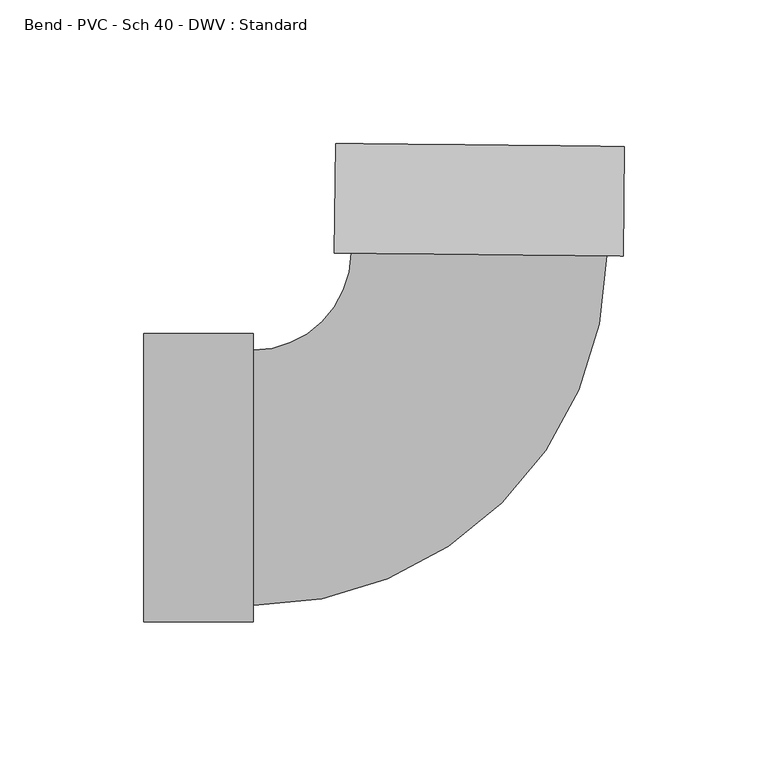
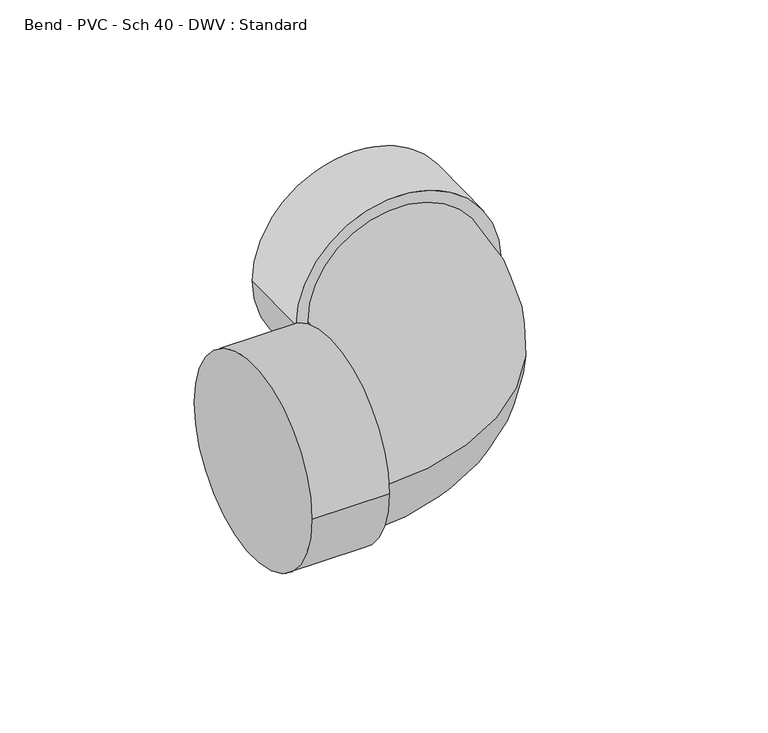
"""IFC4 building model written with IfcOpenShell, lengths in millimetres: pipe fitting geometry, Bend - PVC - Sch 40 - DWV : Standard."""

import ifcopenshell
import ifcopenshell.guid

model = None  # the IFC model being written
_history = None  # IfcOwnerHistory: only IFC2X3 demands one
_inside = {}  # id of a spatial element -> (the spatial element, [elements in it])
_under = {}  # id of a project, library or spatial element -> (it, [spatial elements below it])
_declared = {}  # id of a project -> (the project, [libraries it declares])
_typed = {}  # id of a type object -> (the type object, [elements of that type])
_made_of = {}  # id of a material, layer set ... -> (it, [elements and type objects made of it])


def new_model(schema):
    """Start an empty IFC model of exactly this schema.

    Asked for "IFC4X3", IfcOpenShell would pick the latest addendum, in which some entities
    have other attributes; the version numbers below select the first issue.
    IFC2X3 requires an IfcOwnerHistory on every rooted entity: one is made here for all.
    """
    global model, _history
    if schema == "IFC4X3":
        model = ifcopenshell.file(schema_version=(4, 3, 0, 0))
    else:
        model = ifcopenshell.file(schema=schema)
    _inside.clear()
    _under.clear()
    _declared.clear()
    _typed.clear()
    _made_of.clear()
    _history = None
    if model.schema == "IFC2X3":
        org = make("IfcOrganization", Name="unknown")
        user = make(
            "IfcPersonAndOrganization",
            ThePerson=make("IfcPerson", FamilyName="unknown"),
            TheOrganization=org,
        )
        app = make(
            "IfcApplication",
            ApplicationDeveloper=org,
            Version="unknown",
            ApplicationFullName="unknown",
            ApplicationIdentifier="unknown",
        )
        _history = make(
            "IfcOwnerHistory",
            OwningUser=user,
            OwningApplication=app,
            ChangeAction="ADDED",
            CreationDate=0,
        )
    return model


def make(cls, **values):
    """One entity of the class cls with the attributes given. An attribute that is None is left unset."""
    return model.create_entity(
        cls, **{name: value for name, value in values.items() if value is not None}
    )


def rooted(cls, **values):
    """An entity with a GlobalId (a new one), such as an element, a storey or a relation."""
    return make(cls, GlobalId=ifcopenshell.guid.new(), OwnerHistory=_history, **values)


def si_unit(unit_type, name, prefix=None):
    """IfcSIUnit, for example si_unit("LENGTHUNIT", "METRE", prefix="MILLI")."""
    return make("IfcSIUnit", UnitType=unit_type, Prefix=prefix, Name=name)


def assignment(units):
    """IfcUnitAssignment: the units of a project."""
    return None if units is None else make("IfcUnitAssignment", Units=units)


def point(xyz):
    """IfcCartesianPoint."""
    return None if xyz is None else make("IfcCartesianPoint", Coordinates=xyz)


def direction(xyz):
    """IfcDirection."""
    return None if xyz is None else make("IfcDirection", DirectionRatios=xyz)


def frame(location, z_axis=None, x_axis=None):
    """IfcAxis2Placement3D, a coordinate frame: its origin and axes. An axis left out is left unset."""
    return make(
        "IfcAxis2Placement3D",
        Location=point(location),
        Axis=direction(z_axis),
        RefDirection=direction(x_axis),
    )


def origin():
    """The frame at (0, 0, 0) with its axes left unset."""
    return frame((0.0, 0.0, 0.0))


def place(relative_to, where):
    """IfcLocalPlacement: puts the frame where relative to a parent placement (None: the world)."""
    return make(
        "IfcLocalPlacement", PlacementRelTo=relative_to, RelativePlacement=where
    )


def context(
    kind, dimensions, precision=None, world=None, true_north=None, identifier=None
):
    """IfcGeometricRepresentationContext, for example the 3D "Model" context."""
    return make(
        "IfcGeometricRepresentationContext",
        ContextIdentifier=identifier,
        ContextType=kind,
        CoordinateSpaceDimension=dimensions,
        Precision=precision,
        WorldCoordinateSystem=world,
        TrueNorth=true_north,
    )


def project(units=None, contexts=None):
    """IfcProject with its units and contexts."""
    return rooted(
        "IfcProject",
        Name="project",
        RepresentationContexts=contexts,
        UnitsInContext=assignment(units),
    )


def spatial(cls, under=None, at=None, **own):
    """A site, building, storey or space (cls), placed at a placement, below another one or the project."""
    s = rooted(cls, ObjectPlacement=at, **own)
    if under is not None:
        _under.setdefault(under.id(), (under, []))[1].append(s)
    return s


def circle_curve(where, radius):
    """IfcCircle in the frame where."""
    return make("IfcCircle", Position=where, Radius=radius)


def ellipse_curve(where, semi_axis1, semi_axis2):
    """IfcEllipse in the frame where."""
    return make(
        "IfcEllipse", Position=where, SemiAxis1=semi_axis1, SemiAxis2=semi_axis2
    )


def trimmed(basis, trim1, trim2, sense, master):
    """IfcTrimmedCurve: the piece of a basis curve between two trims."""
    return make(
        "IfcTrimmedCurve",
        BasisCurve=basis,
        Trim1=trim1,
        Trim2=trim2,
        SenseAgreement=sense,
        MasterRepresentation=master,
    )


def shape(context_of_items, identifier, shape_type, items):
    """IfcShapeRepresentation: the items that make up one representation, for example the "Body"."""
    return make(
        "IfcShapeRepresentation",
        ContextOfItems=context_of_items,
        RepresentationIdentifier=identifier,
        RepresentationType=shape_type,
        Items=items,
    )


def source(mapping_origin, context_of_items, identifier, shape_type, items):
    """IfcRepresentationMap: a shape defined once, which mapped items show again and again."""
    return make(
        "IfcRepresentationMap",
        MappingOrigin=mapping_origin,
        MappedRepresentation=shape(context_of_items, identifier, shape_type, items),
    )


def transform(
    local_origin,
    x_axis=None,
    y_axis=None,
    z_axis=None,
    scale=None,
    scale2=None,
    scale3=None,
    uniform=True,
):
    """IfcCartesianTransformationOperator3D, or its non-uniform kind. x_axis, y_axis, z_axis: its Axis1, 2, 3."""
    if uniform:
        return make(
            "IfcCartesianTransformationOperator3D",
            Axis1=direction(x_axis),
            Axis2=direction(y_axis),
            LocalOrigin=point(local_origin),
            Scale=scale,
            Axis3=direction(z_axis),
        )
    return make(
        "IfcCartesianTransformationOperator3DnonUniform",
        Axis1=direction(x_axis),
        Axis2=direction(y_axis),
        LocalOrigin=point(local_origin),
        Scale=scale,
        Axis3=direction(z_axis),
        Scale2=scale2,
        Scale3=scale3,
    )


def mapped(mapping_source, mapping_target):
    """IfcMappedItem: shows the shape of a source again, moved by a transform."""
    return make(
        "IfcMappedItem", MappingSource=mapping_source, MappingTarget=mapping_target
    )


def made_of(thing, what):
    """Note that an element or type object is made of a material, layer set ...; save() writes the relation."""
    if what is not None:
        _made_of.setdefault(what.id(), (what, []))[1].append(thing)
    return thing


def element(
    cls,
    number,
    at=None,
    inside=None,
    cuts=None,
    type_object=None,
    material=None,
    context=None,
    identifier="Body",
    shape_type=None,
    held_by="IfcProductDefinitionShape",
    body=None,
    shapes=None,
    **own,
):
    """One element of the class cls, such as IfcWall. Its Tag is "e" and its number.

    at: its placement. inside: the storey or other place that contains it. cuts: it is an
    opening in that element (IfcRelVoidsElement). A single representation is given by context,
    identifier, shape_type and body (its items); several are given by shapes. held_by: the class
    of the entity that holds the representations. save() writes the other relations.
    """
    e = rooted(cls, Tag="e%d" % number, ObjectPlacement=at, **own)
    if body is not None:
        shapes = [shape(context, identifier, shape_type, body)]
    if shapes is not None:
        e.Representation = make(held_by, Representations=shapes)
    if inside is not None:
        _inside.setdefault(inside.id(), (inside, []))[1].append(e)
    if cuts is not None:
        rooted(
            "IfcRelVoidsElement", RelatingBuildingElement=cuts, RelatedOpeningElement=e
        )
    if type_object is not None:
        _typed.setdefault(type_object.id(), (type_object, []))[1].append(e)
    return made_of(e, material)


def aggregate(whole, parts):
    """IfcRelAggregates: a whole, such as a stair, and the parts it consists of."""
    return rooted("IfcRelAggregates", RelatingObject=whole, RelatedObjects=parts)


def save(model, path):
    """Write the relations noted so far, then the file.

    IfcRelAggregates (storeys below a building ...), IfcRelContainedInSpatialStructure (elements
    in a storey), IfcRelDefinesByType, IfcRelAssociatesMaterial and IfcRelDeclares: one each for
    every whole, place, type object, material and project.
    """
    for whole, parts in _under.values():
        aggregate(whole, parts)
    for where, things in _inside.values():
        rooted(
            "IfcRelContainedInSpatialStructure",
            RelatedElements=things,
            RelatingStructure=where,
        )
    for kind, things in _typed.values():
        rooted("IfcRelDefinesByType", RelatedObjects=things, RelatingType=kind)
    for what, things in _made_of.values():
        rooted("IfcRelAssociatesMaterial", RelatedObjects=things, RelatingMaterial=what)
    for by, libraries in _declared.values():
        rooted("IfcRelDeclares", RelatingContext=by, RelatedDefinitions=libraries)
    model.write(path)


def plane_surface(at):
    """IfcPlane: the flat surface through the origin of the frame at, square to its z axis."""
    return make("IfcPlane", Position=at)


def cylinder_surface(at, radius):
    """IfcCylindricalSurface: all points at the distance radius from the z axis of the frame at."""
    return make("IfcCylindricalSurface", Position=at, Radius=radius)


def revolved_surface(curve, axis_point, axis_direction):
    """IfcSurfaceOfRevolution: the curve turned about the line through axis_point along axis_direction."""
    return make(
        "IfcSurfaceOfRevolution",
        SweptCurve=make("IfcArbitraryOpenProfileDef", ProfileType="CURVE", Curve=curve),
        AxisPosition=make("IfcAxis1Placement", Location=point(axis_point), Axis=direction(axis_direction)),
    )


def advanced_brep(points, edges, surfaces, faces):
    """IfcAdvancedBrep: a solid bounded by faces that lie on surfaces and meet in shared edges.

    An edge is (start, end): straight between two places in points (the first is 0);
    or (start, end, curve); or (start, end, curve, False) where it runs against its curve.
    A face is (place in surfaces, loops), or (place, loops, False) where it looks against
    its surface's normal. A loop lists edges by number (the first is 1), with a minus sign
    where the edge is run from its end to its start. The first loop is the outer one.
    """
    corners = [point(p) for p in points]
    vertices = [make("IfcVertexPoint", VertexGeometry=c) for c in corners]
    made = []
    for start, end, *more in edges:
        made.append(
            make(
                "IfcEdgeCurve",
                EdgeStart=vertices[start],
                EdgeEnd=vertices[end],
                EdgeGeometry=more[0] if more else make("IfcPolyline", Points=[corners[start], corners[end]]),
                SameSense=more[1] if len(more) > 1 else True,
            )
        )
    hull = []
    for where, loops, *sense in faces:
        bounds = []
        for j, loop in enumerate(loops):
            ring = [make("IfcOrientedEdge", EdgeElement=made[abs(k) - 1], Orientation=k > 0) for k in loop]
            bounds.append(
                make(
                    "IfcFaceOuterBound" if j == 0 else "IfcFaceBound",
                    Bound=make("IfcEdgeLoop", EdgeList=ring),
                    Orientation=True,
                )
            )
        hull.append(make("IfcAdvancedFace", Bounds=bounds, FaceSurface=surfaces[where], SameSense=sense[0] if sense else True))
    return make("IfcAdvancedBrep", Outer=make("IfcClosedShell", CfsFaces=hull))


def bend_pvc_sch_40_dwv_standard_3c31cd25(model_context):
    return source(origin(), model_context, "Body", "AdvancedBrep", [
        advanced_brep(
        [(-115.9002, -50.2666, 0.0), (-115.9002, 50.2666, 0.0), (-77.8002, -50.2666, 0.0), (-77.8002, 50.2666, 0.0), (-77.8002, -44.45, 0.0), (-77.8002, 44.45, 0.0), (-43.6391794, 78.2578791, 0.0), (45.256021, 77.3341204, 0.0), (51.072307, 77.2736802, 0.0), (-49.4554654, 78.3183193, 0.0), (51.4682036, 115.3716233, 0.0), (-49.0595688, 116.4162624, 0.0)],
        [
            (0, 1, circle_curve(frame((-115.9002, 0.0, 0.0), z_axis=(-1.0, 0.0, 0.0), x_axis=(0.0, 1.0, 0.0)), 50.2666)),
            (1, 0, circle_curve(frame((-115.9002, 0.0, 0.0), z_axis=(-1.0, 0.0, 0.0), x_axis=(0.0, 1.0, 0.0)), 50.2666)),
            (2, 3, circle_curve(frame((-77.8002, 0.0, 0.0), z_axis=(1.0, 0.0, 0.0), x_axis=(0.0, 1.0, 0.0)), 50.2666)),
            (3, 2, circle_curve(frame((-77.8002, 0.0, 0.0), z_axis=(1.0, 0.0, 0.0), x_axis=(0.0, 1.0, 0.0)), 50.2666)),
            (4, 5, circle_curve(frame((-77.8002, 0.0, 0.0), z_axis=(-1.0, 0.0, 0.0), x_axis=(0.0, 1.0, 0.0)), 44.45)),
            (5, 4, circle_curve(frame((-77.8002, 0.0, 0.0), z_axis=(-1.0, 0.0, 0.0), x_axis=(0.0, 1.0, 0.0)), 44.45)),
            (0, 2),
            (3, 1),
            (6, 5, circle_curve(frame((-77.8002, 78.6128649, 0.0), z_axis=(0.0, 0.0, -1.0), x_axis=(0.0, -1.0, 0.0)), 34.1628649)),
            (4, 7, circle_curve(frame((-77.8002, 78.6128649, 0.0), z_axis=(0.0, 0.0, 1.0), x_axis=(0.0, -1.0, 0.0)), 123.0628649)),
            (7, 6, circle_curve(frame((0.8084208, 77.7959997, 0.0), z_axis=(-0.010390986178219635, -0.9999460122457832, 0.0), x_axis=(-0.9999460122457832, 0.010390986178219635, 0.0)), 44.45)),
            (6, 7, circle_curve(frame((0.8084208, 77.7959997, 0.0), z_axis=(-0.010390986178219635, -0.9999460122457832, 0.0), x_axis=(-0.9999460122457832, 0.010390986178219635, 0.0)), 44.45)),
            (8, 9, circle_curve(frame((0.8084208, 77.7959997, 0.0), z_axis=(-0.010390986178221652, -0.9999460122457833, 0.0), x_axis=(-0.9999460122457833, 0.010390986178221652, 0.0)), 50.2666)),
            (9, 8, circle_curve(frame((0.8084208, 77.7959997, 0.0), z_axis=(-0.010390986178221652, -0.9999460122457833, 0.0), x_axis=(-0.9999460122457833, 0.010390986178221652, 0.0)), 50.2666)),
            (10, 11, circle_curve(frame((1.2043174, 115.8939428, 0.0), z_axis=(0.010390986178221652, 0.9999460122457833, 0.0), x_axis=(-0.9999460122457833, 0.010390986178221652, 0.0)), 50.2666)),
            (11, 10, circle_curve(frame((1.2043174, 115.8939428, 0.0), z_axis=(0.010390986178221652, 0.9999460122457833, 0.0), x_axis=(-0.9999460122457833, 0.010390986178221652, 0.0)), 50.2666)),
            (8, 10),
            (11, 9),
        ],
        [
            plane_surface(frame((-115.9002, 0.0, 0.0), z_axis=(-1.0, 0.0, 0.0), x_axis=(0.0, 0.0, 1.0))),
            plane_surface(frame((-77.8002, 0.0, 0.0), z_axis=(1.0, 0.0, 0.0), x_axis=(0.0, 0.0, 1.0))),
            cylinder_surface(frame((-115.9002, 0.0, 0.0), z_axis=(-1.0, 0.0, 0.0), x_axis=(0.0, 1.0, 0.0)), 50.2666),
            revolved_surface(trimmed(ellipse_curve(frame((-77.8002, 0.0, 0.0), z_axis=(-1.0, 0.0, 0.0), x_axis=(0.0, 1.0, 0.0)), 44.45, 44.45), [point((-77.8002, -44.45, 0.0))], [point((-77.8002, 44.45, 0.0))], True, "CARTESIAN"), (-77.8002, 78.6128649, 0.0), (0.0, 0.0, 1.0)),
            revolved_surface(trimmed(ellipse_curve(frame((-77.8002, 0.0, 0.0), z_axis=(-1.0, 0.0, 0.0), x_axis=(0.0, 1.0, 0.0)), 44.45, 44.45), [point((-77.8002, 44.45, 0.0))], [point((-77.8002, -44.45, 0.0))], True, "CARTESIAN"), (-77.8002, 78.6128649, 0.0), (0.0, 0.0, 1.0)),
            plane_surface(frame((0.8084208, 77.7959997, 0.0), z_axis=(-0.010390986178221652, -0.9999460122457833, 0.0), x_axis=(0.0, 0.0, 1.0))),
            plane_surface(frame((1.2043174, 115.8939428, 0.0), z_axis=(0.010390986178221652, 0.9999460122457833, 0.0), x_axis=(0.0, 0.0, 1.0))),
            cylinder_surface(frame((0.8084208, 77.7959997, 0.0), z_axis=(-0.010390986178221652, -0.9999460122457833, 0.0), x_axis=(-0.9999460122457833, 0.010390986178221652, 0.0)), 50.2666),
        ],
        [
            (0, [[1, 2]]),
            (1, [[3, 4], [5, 6]]),
            (2, [[-1, 7, -4, 8]]),
            (2, [[-2, -8, -3, -7]]),
            (3, [[9, -5, 10, 11]]),
            (4, [[-9, 12, -10, -6]]),
            (5, [[13, 14], [-11, -12]]),
            (6, [[15, 16]]),
            (7, [[-13, 17, -16, 18]]),
            (7, [[-14, -18, -15, -17]]),
        ],
    ),
    ])


if __name__ == "__main__":
    model = new_model("IFC4")
    model_context = context("Model", 3, world=origin())
    ifc_project = project(units=[si_unit("LENGTHUNIT", "METRE", prefix="MILLI")], contexts=[model_context])
    site = spatial("IfcSite", under=ifc_project)
    building = spatial("IfcBuilding", under=site)
    placement = place(None, origin())
    bend_pvc_sch_40_dwv_standard_shape = bend_pvc_sch_40_dwv_standard_3c31cd25(model_context)
    element("IfcPipeFitting", 1, ObjectType="Bend - PVC - Sch 40 - DWV : Standard", at=placement, inside=building, context=model_context, shape_type="MappedRepresentation", body=[
        mapped(bend_pvc_sch_40_dwv_standard_shape, transform((0.0, 0.0, 0.0), x_axis=(1.0, 0.0, 0.0), y_axis=(0.0, 1.0, 0.0), z_axis=(0.0, 0.0, 1.0))),
    ])
    save(model, "model.ifc")
